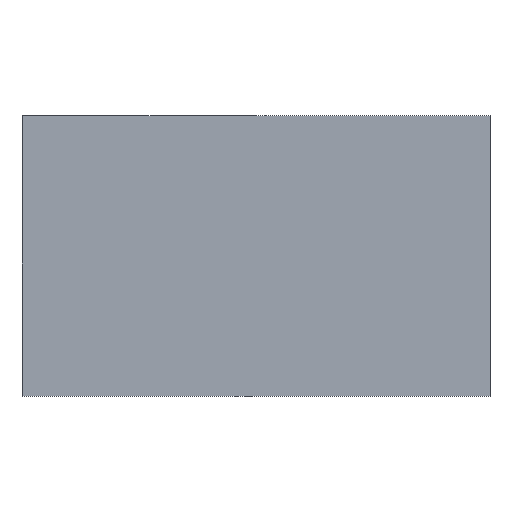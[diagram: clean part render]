
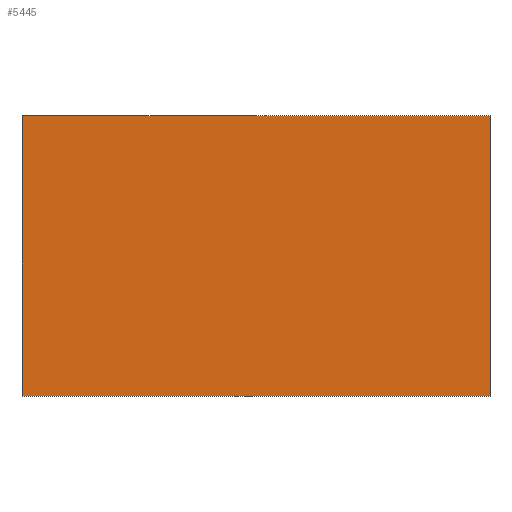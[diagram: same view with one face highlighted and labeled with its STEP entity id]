
A CAD part, top view. The second image highlights one B-rep face of the part: STEP entity #5445.
In plain terms, the highlighted planar face has unit normal (0, 0, 1).
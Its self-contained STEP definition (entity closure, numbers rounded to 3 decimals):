
#95=LINE('',#28546,#107);
#99=LINE('',#28554,#111);
#102=LINE('',#28560,#114);
#104=LINE('',#28563,#116);
#107=VECTOR('',#24388,1.);
#111=VECTOR('',#24394,1.);
#114=VECTOR('',#24399,1.);
#116=VECTOR('',#24403,1.);
#2483=PLANE('',#18482);
#3669=FACE_OUTER_BOUND('',#9581,.T.);
#5445=ADVANCED_FACE('',(#3669),#2483,.T.);
#9581=EDGE_LOOP('',(#11959,#11960,#11961,#11962));
#11959=ORIENTED_EDGE('',*,*,#14337,.T.);
#11960=ORIENTED_EDGE('',*,*,#14341,.T.);
#11961=ORIENTED_EDGE('',*,*,#14344,.T.);
#11962=ORIENTED_EDGE('',*,*,#14346,.T.);
#13149=VERTEX_POINT('',#28545);
#13150=VERTEX_POINT('',#28547);
#13152=VERTEX_POINT('',#28553);
#13154=VERTEX_POINT('',#28559);
#14337=EDGE_CURVE('',#13150,#13149,#95,.T.);
#14341=EDGE_CURVE('',#13149,#13152,#99,.T.);
#14344=EDGE_CURVE('',#13152,#13154,#102,.T.);
#14346=EDGE_CURVE('',#13154,#13150,#104,.T.);
#18482=AXIS2_PLACEMENT_3D('',#28565,#24406,#24407);
#24388=DIRECTION('',(-1.,0.,0.));
#24394=DIRECTION('',(0.,-1.,0.));
#24399=DIRECTION('',(1.,0.,0.));
#24403=DIRECTION('',(0.,1.,0.));
#24406=DIRECTION('',(0.,0.,1.));
#24407=DIRECTION('',(1.,0.,0.));
#28545=CARTESIAN_POINT('',(2.4,124.,10.));
#28546=CARTESIAN_POINT('',(202.4,124.,10.));
#28547=CARTESIAN_POINT('',(202.4,124.,10.));
#28553=CARTESIAN_POINT('',(2.4,4.,10.));
#28554=CARTESIAN_POINT('',(2.4,124.,10.));
#28559=CARTESIAN_POINT('',(202.4,4.,10.));
#28560=CARTESIAN_POINT('',(2.4,4.,10.));
#28563=CARTESIAN_POINT('',(202.4,4.,10.));
#28565=CARTESIAN_POINT('',(0.,0.,10.));
